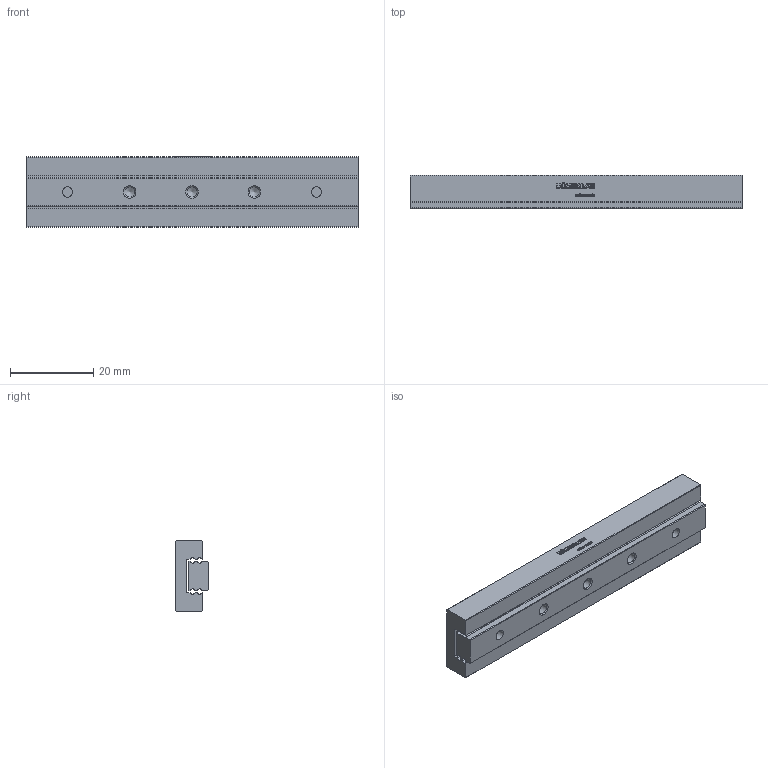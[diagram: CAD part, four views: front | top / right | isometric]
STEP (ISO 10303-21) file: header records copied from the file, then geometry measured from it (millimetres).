
FILE_DESCRIPTION(/* description */ ('STEP AP214'),/* implementation_level */ '2;1');
FILE_NAME(/* name */ 'MSK 7-80.70(0)',/* time_stamp */ '2025-04-16T16:58:36+02:00',/* author */ ('License CC BY-ND 4.0'),/* organization */ ('CADENAS'),/* preprocessor_version */ 'ST-DEVELOPER v19.3',/* originating_system */ 'PARTsolutions',/* authorisation */ ' ');
FILE_SCHEMA (('AUTOMOTIVE_DESIGN {1 0 10303 214 3 1 1}'));
Length unit declared in the file: millimetre
Products named in the file (3): MSK 7-80.70(0); MSK 7-80.70_1; MSK 7-80.70_2
Assembly tree (2 placements, depth 2):
  MSK 7-80.70(0)
    MSK 7-80.70_1
    MSK 7-80.70_2
Bounding box: 80 x 8 x 17 mm (x, y, z)
Volume: 8524.2 mm3; surface area: 7170.4 mm2
Topology: 2 solids, 2 shells, 560 faces, 1519 edges, 1006 vertices
Faces by surface type: cylinder 321, plane 219, cone 20
Full cylindrical faces by diameter (mm): 1.567 x14, 2.459 x5, 4.5 x2
Entity records: 17745 total; most frequent: DIRECTION 3260, CARTESIAN_POINT 3044, ORIENTED_EDGE 2950, EDGE_CURVE 1475, AXIS2_PLACEMENT_3D 1222, VERTEX_POINT 1006, LINE 816, VECTOR 816
